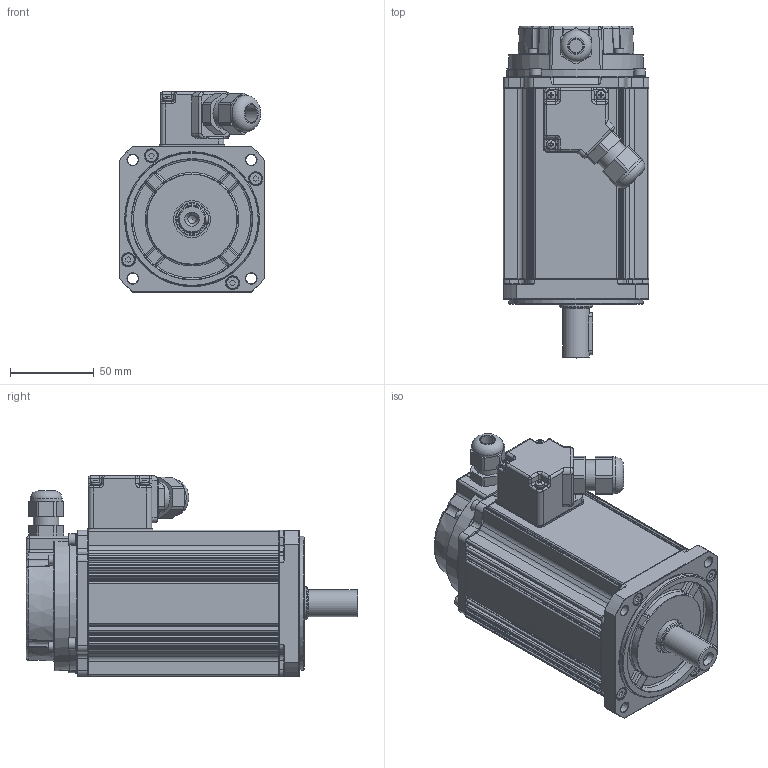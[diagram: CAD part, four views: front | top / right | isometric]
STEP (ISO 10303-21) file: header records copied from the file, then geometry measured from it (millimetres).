
FILE_DESCRIPTION(('STEP AP203'),'1');
FILE_NAME('B301E-D2R.stp','2021-04-14T07:12:17',(' '),(' '),'Spatial InterOp 3D',' ',' ');
FILE_SCHEMA(('CONFIG_CONTROL_DESIGN'));
Length unit declared in the file: millimetre
Products named in the file (1): B301E-D2R
Bounding box: 87 x 198 x 119.5 mm (x, y, z)
Volume: 1059565.1 mm3; surface area: 107461.1 mm2
Topology: 1 solids, 14 shells, 1851 faces, 4391 edges, 2582 vertices
Faces by surface type: plane 835, cylinder 408, cone 385, torus 122, bspline 72, sphere 22, revolution 7
Full cylindrical faces by diameter (mm): 2.5 x5, 3 x7, 3.3 x9, 3.5 x4, 4 x8, 4.5 x8, 5 x1, 5.5 x4, 5.6 x3, 6.5 x4, 7 x8, 8 x5, 8.5 x1, 10 x1, 10.5 x1, 15.2 x1, 16 x1, 18.6 x2, 19 x1, 19.8 x1, 22 x2, 30 x1, 72 x1, 80 x2
Entity records: 60563 total; most frequent: CARTESIAN_POINT 19107, DIRECTION 8963, ORIENTED_EDGE 8256, EDGE_CURVE 4128, AXIS2_PLACEMENT_3D 3388, VERTEX_POINT 2500, LINE 2180, VECTOR 2180
